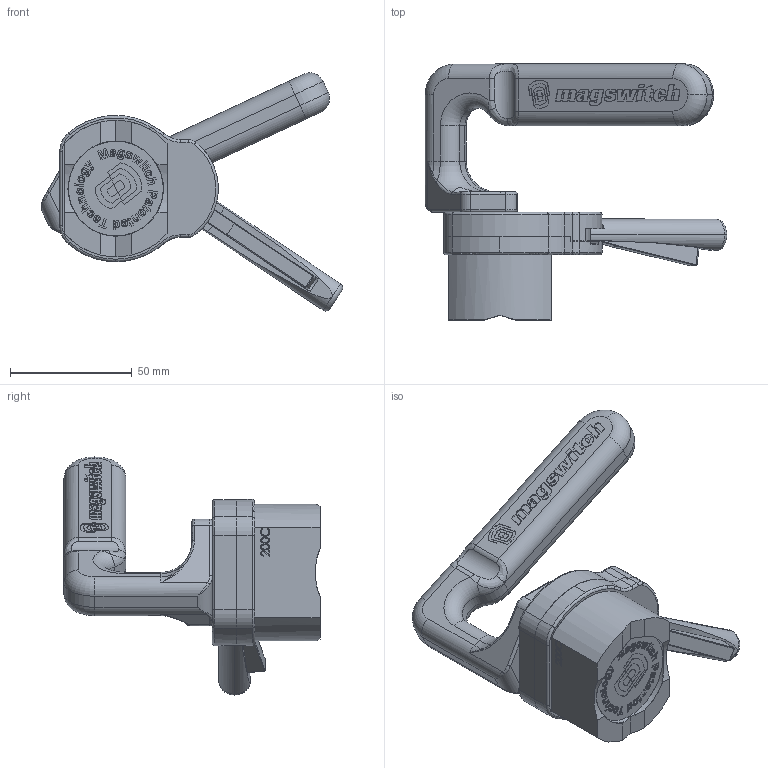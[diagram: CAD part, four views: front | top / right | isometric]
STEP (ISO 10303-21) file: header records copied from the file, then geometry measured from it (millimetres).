
FILE_DESCRIPTION (( 'STEP AP203' ), '1' );
FILE_NAME ('8000795_p.STEP', '2015-03-26T13:43:05', ( '' ), ( '' ), 'SwSTEP 2.0', 'SolidWorks 2013', '' );
FILE_SCHEMA (( 'CONFIG_CONTROL_DESIGN' ));
Length unit declared in the file: millimetre
Products named in the file (1): 8000795_p
Bounding box: 123.73 x 105.05 x 97.66 mm (x, y, z)
Surface area: 40716.8 mm2 (no closed solid volume)
Topology: 0 solids, 14 shells, 1011 faces, 3652 edges, 2550 vertices
Faces by surface type: plane 499, bspline 292, cylinder 122, cone 53, torus 45
Entity records: 52607 total; most frequent: CARTESIAN_POINT 24444, ORIENTED_EDGE 5924, DIRECTION 4660, EDGE_CURVE 3648, VERTEX_POINT 2550, VECTOR 2084, LINE 2084, AXIS2_PLACEMENT_3D 1288
